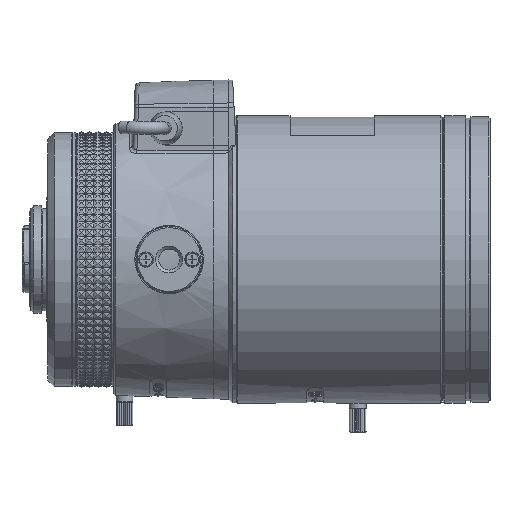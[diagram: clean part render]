
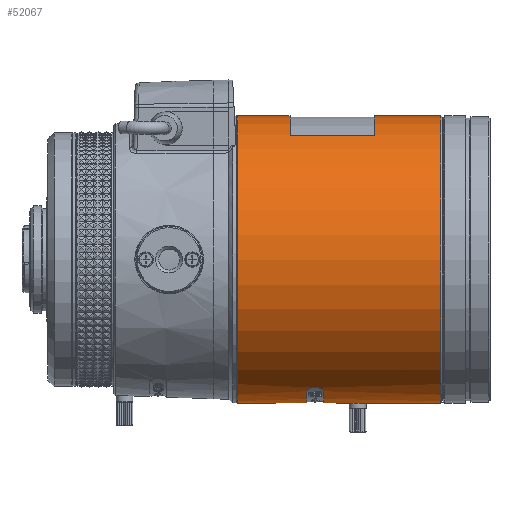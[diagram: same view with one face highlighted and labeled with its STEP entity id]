
A CAD part, left-side view. The second image highlights one B-rep face of the part: STEP entity #52067.
In plain terms, the highlighted cylindrical face has radius 34 mm (diameter 68 mm), a full revolution.
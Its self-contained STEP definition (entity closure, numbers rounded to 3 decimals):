
#1817=B_SPLINE_CURVE_WITH_KNOTS('',3,(#79794,#79795,#79796,#79797,#79798,
#79799,#79800,#79801,#79802,#79803,#79804),.UNSPECIFIED.,.T.,.F.,(1,1,1,
1,1,1,1,1,1,1,1,1,1,1,1),(-0.005,-0.003,-0.002,
0.,0.002,0.003,0.005,0.006,
0.008,0.009,0.011,0.012,
0.014,0.016,0.017),.UNSPECIFIED.);
#1818=B_SPLINE_CURVE_WITH_KNOTS('',3,(#79916,#79917,#79918,#79919,#79920,
#79921,#79922,#79923,#79924,#79925,#79926),.UNSPECIFIED.,.F.,.F.,(4,1,1,
1,1,1,1,1,4),(0.,0.25,0.313,0.375,0.5,0.625,0.688,0.75,1.),
 .UNSPECIFIED.);
#1819=B_SPLINE_CURVE_WITH_KNOTS('',3,(#80065,#80066,#80067,#80068,#80069,
#80070,#80071,#80072,#80073,#80074,#80075),.UNSPECIFIED.,.F.,.F.,(4,1,1,
1,1,1,1,1,4),(0.,0.25,0.313,0.375,0.5,0.625,0.688,0.75,1.),
 .UNSPECIFIED.);
#2136=CYLINDRICAL_SURFACE('',#55946,34.);
#3116=LINE('',#79813,#4607);
#3119=LINE('',#79821,#4610);
#4607=VECTOR('',#64298,1000.);
#4610=VECTOR('',#64307,1000.);
#15371=ORIENTED_EDGE('',*,*,#21400,.T.);
#15372=ORIENTED_EDGE('',*,*,#21399,.T.);
#15373=ORIENTED_EDGE('',*,*,#21397,.T.);
#15374=ORIENTED_EDGE('',*,*,#21395,.T.);
#15375=ORIENTED_EDGE('',*,*,#21393,.F.);
#15376=ORIENTED_EDGE('',*,*,#21406,.F.);
#15377=ORIENTED_EDGE('',*,*,#21391,.F.);
#15378=ORIENTED_EDGE('',*,*,#21389,.F.);
#15379=ORIENTED_EDGE('',*,*,#21387,.T.);
#15380=ORIENTED_EDGE('',*,*,#21386,.T.);
#15381=ORIENTED_EDGE('',*,*,#21383,.T.);
#21383=EDGE_CURVE('',#24409,#24409,#1817,.T.);
#21386=EDGE_CURVE('',#24410,#24411,#26320,.T.);
#21387=EDGE_CURVE('',#24412,#24410,#3116,.T.);
#21389=EDGE_CURVE('',#24412,#24413,#26321,.T.);
#21391=EDGE_CURVE('',#24413,#24411,#3119,.T.);
#21393=EDGE_CURVE('',#24414,#24415,#26322,.T.);
#21395=EDGE_CURVE('',#24416,#24415,#1818,.T.);
#21397=EDGE_CURVE('',#24417,#24416,#26323,.T.);
#21399=EDGE_CURVE('',#24414,#24417,#1819,.T.);
#21400=EDGE_CURVE('',#24418,#24418,#26324,.T.);
#21406=EDGE_CURVE('',#24424,#24424,#26326,.T.);
#24409=VERTEX_POINT('',#79805);
#24410=VERTEX_POINT('',#79808);
#24411=VERTEX_POINT('',#79810);
#24412=VERTEX_POINT('',#79814);
#24413=VERTEX_POINT('',#79818);
#24414=VERTEX_POINT('',#79824);
#24415=VERTEX_POINT('',#79826);
#24416=VERTEX_POINT('',#79927);
#24417=VERTEX_POINT('',#79931);
#24418=VERTEX_POINT('',#80078);
#24424=VERTEX_POINT('',#80136);
#26320=CIRCLE('',#55931,34.);
#26321=CIRCLE('',#55934,34.);
#26322=CIRCLE('',#55937,34.);
#26323=CIRCLE('',#55939,34.);
#26324=CIRCLE('',#55941,34.);
#26326=CIRCLE('',#55947,34.);
#28746=EDGE_LOOP('',(#15371));
#28747=EDGE_LOOP('',(#15372,#15373,#15374,#15375));
#28748=EDGE_LOOP('',(#15376));
#28749=EDGE_LOOP('',(#15377,#15378,#15379,#15380));
#28750=EDGE_LOOP('',(#15381));
#31539=FACE_BOUND('',#28746,.T.);
#31540=FACE_BOUND('',#28747,.T.);
#31541=FACE_BOUND('',#28748,.T.);
#31542=FACE_BOUND('',#28749,.T.);
#31543=FACE_BOUND('',#28750,.T.);
#52067=ADVANCED_FACE('',(#31539,#31540,#31541,#31542,#31543),#2136,.T.);
#55931=AXIS2_PLACEMENT_3D('',#79811,#64294,#64295);
#55934=AXIS2_PLACEMENT_3D('',#79817,#64302,#64303);
#55937=AXIS2_PLACEMENT_3D('',#79825,#64311,#64312);
#55939=AXIS2_PLACEMENT_3D('',#79930,#64317,#64318);
#55941=AXIS2_PLACEMENT_3D('',#80077,#64322,#64323);
#55946=AXIS2_PLACEMENT_3D('',#80134,#64332,#64333);
#55947=AXIS2_PLACEMENT_3D('',#80135,#64334,#64335);
#64294=DIRECTION('',(0.,-1.,0.));
#64295=DIRECTION('',(0.695,0.,0.719));
#64298=DIRECTION('',(0.,-1.,0.));
#64302=DIRECTION('',(0.,-1.,0.));
#64303=DIRECTION('',(0.695,0.,0.719));
#64307=DIRECTION('',(0.,-1.,0.));
#64311=DIRECTION('',(0.,-1.,0.));
#64312=DIRECTION('',(0.946,0.,0.326));
#64317=DIRECTION('',(0.,-1.,0.));
#64318=DIRECTION('',(0.946,0.,0.326));
#64322=DIRECTION('',(0.,1.,0.));
#64323=DIRECTION('',(-0.94,0.,-0.342));
#64332=DIRECTION('',(0.,-1.,0.));
#64333=DIRECTION('',(0.94,0.,0.342));
#64334=DIRECTION('',(0.,1.,0.));
#64335=DIRECTION('',(-0.94,0.,-0.342));
#79794=CARTESIAN_POINT('',(-1.56,-84.437,-33.971));
#79795=CARTESIAN_POINT('',(-2.209,-86.,-33.927));
#79796=CARTESIAN_POINT('',(-1.561,-87.562,-33.971));
#79797=CARTESIAN_POINT('',(-0.002,-88.208,-34.015));
#79798=CARTESIAN_POINT('',(1.561,-87.563,-33.971));
#79799=CARTESIAN_POINT('',(2.208,-86.,-33.927));
#79800=CARTESIAN_POINT('',(1.563,-84.44,-33.971));
#79801=CARTESIAN_POINT('',(0.002,-83.791,-34.015));
#79802=CARTESIAN_POINT('',(-1.56,-84.437,-33.971));
#79803=CARTESIAN_POINT('',(-2.209,-86.,-33.927));
#79804=CARTESIAN_POINT('',(-1.561,-87.562,-33.971));
#79805=CARTESIAN_POINT('',(-1.993,-86.,-33.942));
#79808=CARTESIAN_POINT('',(17.,-90.,29.445));
#79810=CARTESIAN_POINT('',(-17.,-90.,29.445));
#79811=CARTESIAN_POINT('',(0.,-90.,0.));
#79813=CARTESIAN_POINT('',(17.,0.,29.445));
#79814=CARTESIAN_POINT('',(17.,-70.,29.445));
#79817=CARTESIAN_POINT('',(0.,-70.,0.));
#79818=CARTESIAN_POINT('',(-17.,-70.,29.445));
#79821=CARTESIAN_POINT('',(-17.,0.,29.445));
#79824=CARTESIAN_POINT('',(-13.608,-74.,-31.158));
#79825=CARTESIAN_POINT('',(0.,-74.,0.));
#79826=CARTESIAN_POINT('',(13.608,-74.,-31.158));
#79916=CARTESIAN_POINT('',(13.608,-78.,-31.158));
#79917=CARTESIAN_POINT('',(14.143,-77.972,-30.924));
#79918=CARTESIAN_POINT('',(14.661,-77.744,-30.679));
#79919=CARTESIAN_POINT('',(15.135,-77.105,-30.446));
#79920=CARTESIAN_POINT('',(15.35,-76.659,-30.338));
#79921=CARTESIAN_POINT('',(15.46,-75.997,-30.282));
#79922=CARTESIAN_POINT('',(15.35,-75.339,-30.338));
#79923=CARTESIAN_POINT('',(15.134,-74.893,-30.446));
#79924=CARTESIAN_POINT('',(14.658,-74.253,-30.681));
#79925=CARTESIAN_POINT('',(14.143,-74.028,-30.925));
#79926=CARTESIAN_POINT('',(13.608,-74.,-31.158));
#79927=CARTESIAN_POINT('',(13.608,-78.,-31.158));
#79930=CARTESIAN_POINT('',(0.,-78.,0.));
#79931=CARTESIAN_POINT('',(-13.608,-78.,-31.158));
#80065=CARTESIAN_POINT('',(-13.608,-74.,-31.158));
#80066=CARTESIAN_POINT('',(-14.143,-74.028,-30.924));
#80067=CARTESIAN_POINT('',(-14.661,-74.256,-30.679));
#80068=CARTESIAN_POINT('',(-15.135,-74.895,-30.446));
#80069=CARTESIAN_POINT('',(-15.35,-75.341,-30.338));
#80070=CARTESIAN_POINT('',(-15.46,-76.003,-30.282));
#80071=CARTESIAN_POINT('',(-15.35,-76.661,-30.338));
#80072=CARTESIAN_POINT('',(-15.134,-77.107,-30.446));
#80073=CARTESIAN_POINT('',(-14.658,-77.747,-30.681));
#80074=CARTESIAN_POINT('',(-14.143,-77.972,-30.925));
#80075=CARTESIAN_POINT('',(-13.608,-78.,-31.158));
#80077=CARTESIAN_POINT('',(0.,-105.69,0.));
#80078=CARTESIAN_POINT('',(-31.95,-105.69,-11.629));
#80134=CARTESIAN_POINT('',(0.,0.,0.));
#80135=CARTESIAN_POINT('',(0.,-57.47,0.));
#80136=CARTESIAN_POINT('',(-31.95,-57.47,-11.629));
